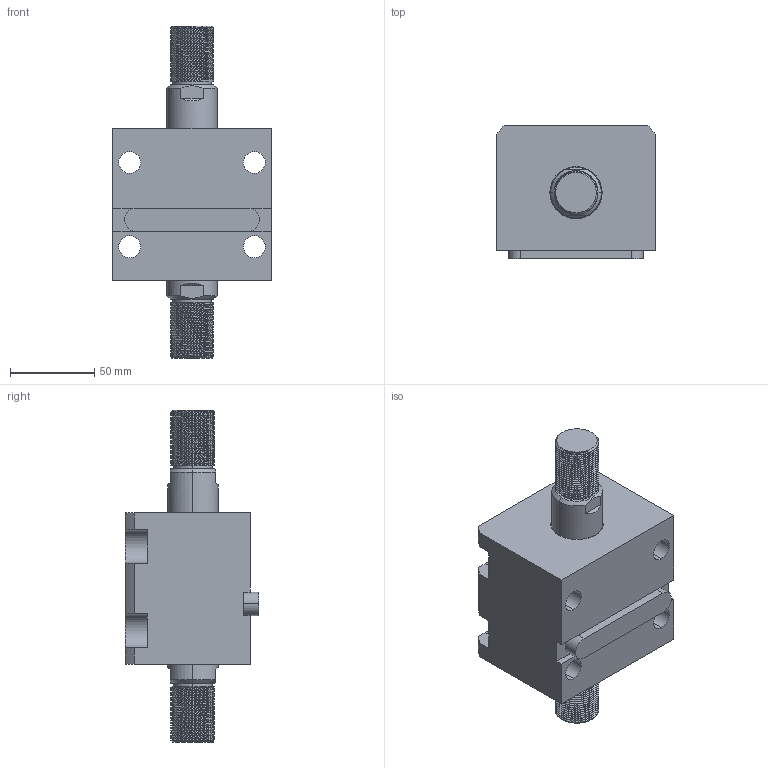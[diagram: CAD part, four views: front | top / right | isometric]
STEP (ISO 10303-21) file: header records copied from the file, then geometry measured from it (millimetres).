
FILE_DESCRIPTION (( 'STEP AP203' ), '1' );
FILE_NAME ('CHTB-LW50-15W.STEP', '2018-05-18T02:24:32', ( '' ), ( '' ), 'SwSTEP 2.0', 'SolidWorks 2015', '' );
FILE_SCHEMA (( 'CONFIG_CONTROL_DESIGN' ));
Length unit declared in the file: millimetre
Products named in the file (4): 掛极LW50-15W; 活塞杆LW50-15W; CHTM-SDMA50QG; CHTB-LW50-15W
Assembly tree (3 placements, depth 2):
  CHTB-LW50-15W
    掛极LW50-15W
    活塞杆LW50-15W
    CHTM-SDMA50QG
Bounding box: 94 x 79 x 197 mm (x, y, z)
Volume: 613262.6 mm3; surface area: 110199.4 mm2
Topology: 3 solids, 3 shells, 312 faces, 858 edges, 570 vertices
Faces by surface type: cylinder 186, plane 64, cone 28, bspline 18, torus 16
Entity records: 19539 total; most frequent: CARTESIAN_POINT 11930, ORIENTED_EDGE 1708, DIRECTION 1317, EDGE_CURVE 854, VERTEX_POINT 570, AXIS2_PLACEMENT_3D 505, EDGE_LOOP 350, ADVANCED_FACE 312
